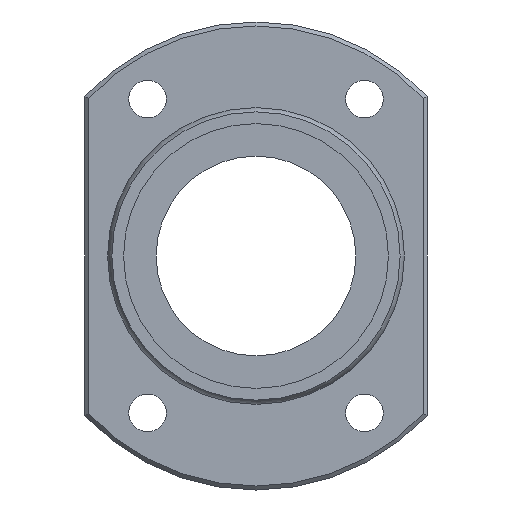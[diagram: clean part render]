
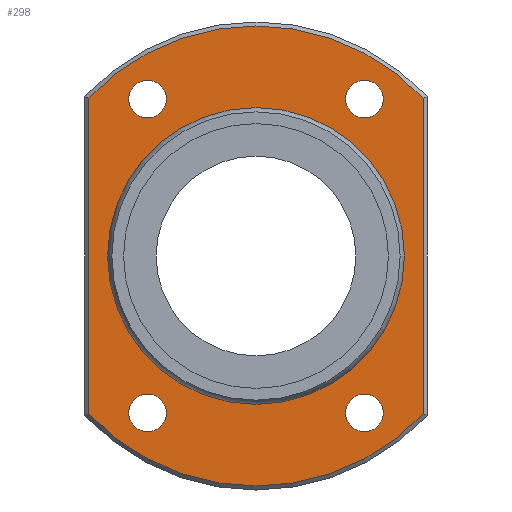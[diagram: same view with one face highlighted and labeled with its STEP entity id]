
A CAD part, left-side view. The second image highlights one B-rep face of the part: STEP entity #298.
In plain terms, the highlighted planar face has unit normal (-1, 0, 0).
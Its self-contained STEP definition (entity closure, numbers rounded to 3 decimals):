
#59=CARTESIAN_POINT('',(15.,29.3,-27.669));
#60=VERTEX_POINT('',#59);
#68=CARTESIAN_POINT('',(15.,29.3,27.669));
#69=VERTEX_POINT('',#68);
#70=CARTESIAN_POINT('',(15.,29.3,-27.669));
#71=DIRECTION('',(0.0,0.0,1.0));
#72=VECTOR('',#71,55.339);
#73=LINE('',#70,#72);
#74=EDGE_CURVE('',#60,#69,#73,.T.);
#101=CARTESIAN_POINT('',(15.,-29.3,27.669));
#102=VERTEX_POINT('',#101);
#103=CARTESIAN_POINT('',(15.,0.0,0.0));
#104=DIRECTION('',(1.0,0.0,0.0));
#105=DIRECTION('',(0.0,0.0,1.0));
#106=AXIS2_PLACEMENT_3D('',#103,#104,#105);
#107=CIRCLE('',#106,40.3);
#108=EDGE_CURVE('',#69,#102,#107,.T.);
#134=CARTESIAN_POINT('',(15.,-29.3,-27.669));
#135=VERTEX_POINT('',#134);
#136=CARTESIAN_POINT('',(15.,-29.3,27.669));
#137=DIRECTION('',(0.0,0.0,-1.0));
#138=VECTOR('',#137,55.339);
#139=LINE('',#136,#138);
#140=EDGE_CURVE('',#102,#135,#139,.T.);
#165=CARTESIAN_POINT('',(15.,0.0,0.0));
#166=DIRECTION('',(1.0,0.0,0.0));
#167=DIRECTION('',(0.0,0.0,-1.0));
#168=AXIS2_PLACEMENT_3D('',#165,#166,#167);
#169=CIRCLE('',#168,40.3);
#170=EDGE_CURVE('',#135,#60,#169,.T.);
#232=CARTESIAN_POINT('',(15.,0.0,33.357));
#233=DIRECTION('',(-1.0,0.0,0.0));
#234=DIRECTION('',(0.0,0.0,1.0));
#235=AXIS2_PLACEMENT_3D('',#232,#233,#234);
#236=PLANE('',#235);
#237=ORIENTED_EDGE('',*,*,#74,.F.);
#238=ORIENTED_EDGE('',*,*,#170,.F.);
#239=ORIENTED_EDGE('',*,*,#140,.F.);
#240=ORIENTED_EDGE('',*,*,#108,.F.);
#241=EDGE_LOOP('',(#237,#238,#239,#240));
#242=FACE_OUTER_BOUND('',#241,.T.);
#243=CARTESIAN_POINT('',(15.,0.0,25.714));
#244=VERTEX_POINT('',#243);
#245=CARTESIAN_POINT('',(15.0,0.0,0.0));
#246=DIRECTION('',(-1.0,0.0,0.0));
#247=DIRECTION('',(0.0,0.0,1.0));
#248=AXIS2_PLACEMENT_3D('',#245,#246,#247);
#249=CIRCLE('',#248,25.714);
#250=EDGE_CURVE('',#244,#244,#249,.T.);
#251=ORIENTED_EDGE('',*,*,#250,.F.);
#252=EDGE_LOOP('',(#251));
#253=FACE_BOUND('',#252,.T.);
#254=CARTESIAN_POINT('',(15.0,-22.3,-27.5));
#255=VERTEX_POINT('',#254);
#256=CARTESIAN_POINT('',(15.0,-19.,-27.5));
#257=DIRECTION('',(1.0,0.0,0.0));
#258=DIRECTION('',(0.0,1.0,0.0));
#259=AXIS2_PLACEMENT_3D('',#256,#257,#258);
#260=CIRCLE('',#259,3.3);
#261=EDGE_CURVE('',#255,#255,#260,.T.);
#262=ORIENTED_EDGE('',*,*,#261,.T.);
#263=EDGE_LOOP('',(#262));
#264=FACE_BOUND('',#263,.T.);
#265=CARTESIAN_POINT('',(15.0,-22.3,27.5));
#266=VERTEX_POINT('',#265);
#267=CARTESIAN_POINT('',(15.0,-19.,27.5));
#268=DIRECTION('',(1.0,0.0,0.0));
#269=DIRECTION('',(0.0,1.0,0.0));
#270=AXIS2_PLACEMENT_3D('',#267,#268,#269);
#271=CIRCLE('',#270,3.3);
#272=EDGE_CURVE('',#266,#266,#271,.T.);
#273=ORIENTED_EDGE('',*,*,#272,.T.);
#274=EDGE_LOOP('',(#273));
#275=FACE_BOUND('',#274,.T.);
#276=CARTESIAN_POINT('',(15.0,15.7,-27.5));
#277=VERTEX_POINT('',#276);
#278=CARTESIAN_POINT('',(15.0,19.,-27.5));
#279=DIRECTION('',(1.0,0.0,0.0));
#280=DIRECTION('',(0.0,1.0,0.0));
#281=AXIS2_PLACEMENT_3D('',#278,#279,#280);
#282=CIRCLE('',#281,3.3);
#283=EDGE_CURVE('',#277,#277,#282,.T.);
#284=ORIENTED_EDGE('',*,*,#283,.T.);
#285=EDGE_LOOP('',(#284));
#286=FACE_BOUND('',#285,.T.);
#287=CARTESIAN_POINT('',(15.0,15.7,27.5));
#288=VERTEX_POINT('',#287);
#289=CARTESIAN_POINT('',(15.0,19.,27.5));
#290=DIRECTION('',(1.0,0.0,0.0));
#291=DIRECTION('',(0.0,1.0,0.0));
#292=AXIS2_PLACEMENT_3D('',#289,#290,#291);
#293=CIRCLE('',#292,3.3);
#294=EDGE_CURVE('',#288,#288,#293,.T.);
#295=ORIENTED_EDGE('',*,*,#294,.T.);
#296=EDGE_LOOP('',(#295));
#297=FACE_BOUND('',#296,.T.);
#298=ADVANCED_FACE('',(#242,#253,#264,#275,#286,#297),#236,.T.);
